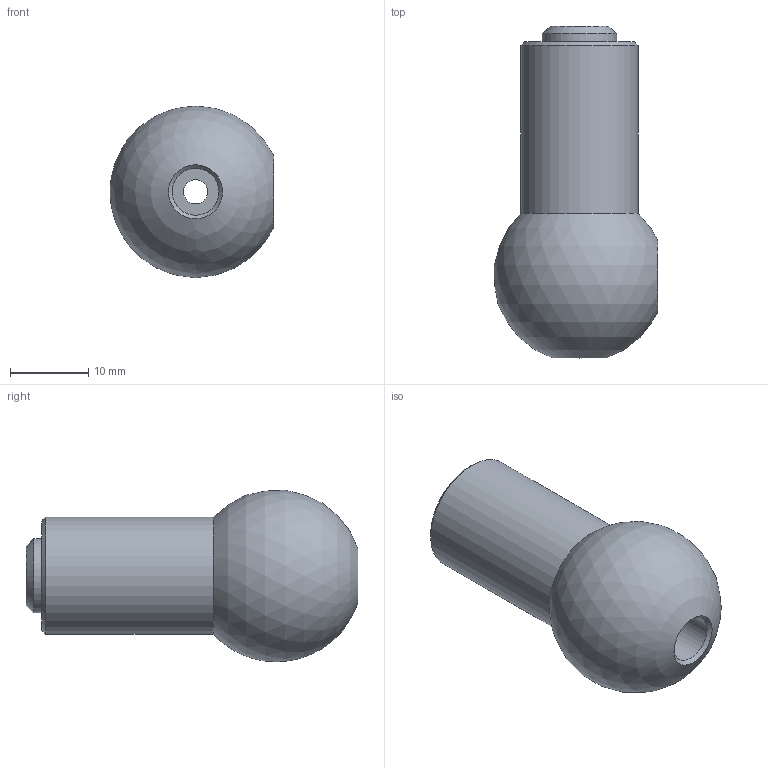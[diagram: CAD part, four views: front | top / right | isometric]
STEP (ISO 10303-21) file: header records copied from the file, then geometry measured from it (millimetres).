
FILE_DESCRIPTION(/* description */ (''),/* implementation_level */ '2;1');
FILE_NAME(/* name */ 'SYSTEM_SUPPORT_34.stp',/* time_stamp */ '2017-12-06T14:34:23+01:00',/* author */ (''),/* organization */ (''),/* preprocessor_version */ 'ST-DEVELOPER v16',/* originating_system */ 'SIEMENS PLM Software NX 10.0',/* authorisation */ '');
FILE_SCHEMA (('AP203_CONFIGURATION_CONTROLLED_3D_DESIGN_OF_MECHANICAL_PARTS_AND_ASSEMBLIES_MIM_LF { 1 0 10303 403 2 1 2}'));
Length unit declared in the file: millimetre
Products named in the file (1): turc1DB80072j4ma
Bounding box: 20.91 x 42.44 x 21.94 mm (x, y, z)
Volume: 8314.5 mm3; surface area: 3242.5 mm2
Topology: 1 solids, 1 shells, 15 faces, 33 edges, 22 vertices
Faces by surface type: cylinder 5, cone 5, plane 4, sphere 1
Full cylindrical faces by diameter (mm): 3.1 x1, 3.3 x1, 6 x1, 9.5 x1, 15 x1
Entity records: 484 total; most frequent: CARTESIAN_POINT 110, DIRECTION 66, AXIS2_PLACEMENT_3D 33, FACE_BOUND 32, EDGE_LOOP 32, ORIENTED_EDGE 32, CIRCLE 17, VERTEX_POINT 16
